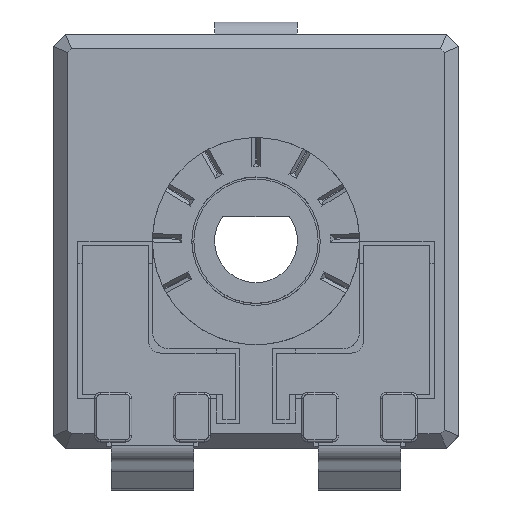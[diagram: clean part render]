
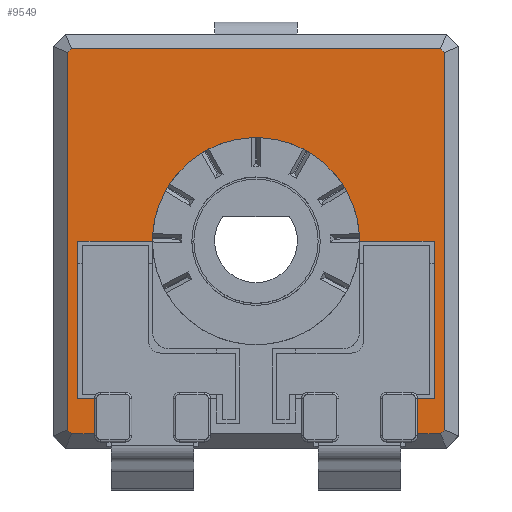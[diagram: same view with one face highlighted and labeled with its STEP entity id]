
A CAD part, top view. The second image highlights one B-rep face of the part: STEP entity #9549.
In plain terms, the highlighted planar face has unit normal (0, 0, 1).
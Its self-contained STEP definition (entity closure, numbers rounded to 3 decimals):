
#171=PLANE('',#10188);
#616=FACE_OUTER_BOUND('',#1113,.T.);
#1113=EDGE_LOOP('',(#7013,#7014,#7015,#7016,#7017,#7018,#7019,#7020,#7021,
#7022,#7023,#7024,#7025,#7026,#7027,#7028,#7029,#7030));
#1610=CIRCLE('',#10189,2.5);
#1933=LINE('',#13886,#3061);
#1986=LINE('',#14102,#3114);
#2041=LINE('',#14222,#3169);
#2063=LINE('',#14266,#3191);
#2064=LINE('',#14268,#3192);
#2065=LINE('',#14270,#3193);
#2066=LINE('',#14272,#3194);
#2067=LINE('',#14274,#3195);
#2068=LINE('',#14276,#3196);
#2069=LINE('',#14278,#3197);
#2070=LINE('',#14280,#3198);
#2071=LINE('',#14281,#3199);
#2072=LINE('',#14283,#3200);
#2073=LINE('',#14285,#3201);
#2074=LINE('',#14287,#3202);
#2075=LINE('',#14291,#3203);
#2076=LINE('',#14292,#3204);
#3061=VECTOR('',#11131,10.);
#3114=VECTOR('',#11378,10.);
#3169=VECTOR('',#11493,10.);
#3191=VECTOR('',#11529,10.);
#3192=VECTOR('',#11530,10.);
#3193=VECTOR('',#11531,10.);
#3194=VECTOR('',#11532,10.);
#3195=VECTOR('',#11533,10.);
#3196=VECTOR('',#11534,10.);
#3197=VECTOR('',#11535,10.);
#3198=VECTOR('',#11536,10.);
#3199=VECTOR('',#11537,10.);
#3200=VECTOR('',#11538,10.);
#3201=VECTOR('',#11539,10.);
#3202=VECTOR('',#11540,10.);
#3203=VECTOR('',#11543,10.);
#3204=VECTOR('',#11544,10.);
#4196=VERTEX_POINT('',#13883);
#4197=VERTEX_POINT('',#13885);
#4262=VERTEX_POINT('',#14099);
#4263=VERTEX_POINT('',#14101);
#4298=VERTEX_POINT('',#14221);
#4313=VERTEX_POINT('',#14265);
#4314=VERTEX_POINT('',#14267);
#4315=VERTEX_POINT('',#14269);
#4316=VERTEX_POINT('',#14271);
#4317=VERTEX_POINT('',#14273);
#4318=VERTEX_POINT('',#14275);
#4319=VERTEX_POINT('',#14277);
#4320=VERTEX_POINT('',#14279);
#4321=VERTEX_POINT('',#14282);
#4322=VERTEX_POINT('',#14284);
#4323=VERTEX_POINT('',#14286);
#4324=VERTEX_POINT('',#14288);
#4325=VERTEX_POINT('',#14290);
#5148=EDGE_CURVE('',#4197,#4196,#1933,.T.);
#5256=EDGE_CURVE('',#4263,#4262,#1986,.T.);
#5318=EDGE_CURVE('',#4298,#4197,#2041,.T.);
#5341=EDGE_CURVE('',#4313,#4196,#2063,.T.);
#5342=EDGE_CURVE('',#4314,#4313,#2064,.T.);
#5343=EDGE_CURVE('',#4315,#4314,#2065,.T.);
#5344=EDGE_CURVE('',#4316,#4315,#2066,.T.);
#5345=EDGE_CURVE('',#4317,#4316,#2067,.T.);
#5346=EDGE_CURVE('',#4318,#4317,#2068,.T.);
#5347=EDGE_CURVE('',#4319,#4318,#2069,.T.);
#5348=EDGE_CURVE('',#4320,#4319,#2070,.T.);
#5349=EDGE_CURVE('',#4263,#4320,#2071,.T.);
#5350=EDGE_CURVE('',#4262,#4321,#2072,.T.);
#5351=EDGE_CURVE('',#4321,#4322,#2073,.T.);
#5352=EDGE_CURVE('',#4322,#4323,#2074,.T.);
#5353=EDGE_CURVE('',#4323,#4324,#1610,.T.);
#5354=EDGE_CURVE('',#4324,#4325,#2075,.T.);
#5355=EDGE_CURVE('',#4325,#4298,#2076,.T.);
#7013=ORIENTED_EDGE('',*,*,#5148,.T.);
#7014=ORIENTED_EDGE('',*,*,#5341,.F.);
#7015=ORIENTED_EDGE('',*,*,#5342,.F.);
#7016=ORIENTED_EDGE('',*,*,#5343,.F.);
#7017=ORIENTED_EDGE('',*,*,#5344,.F.);
#7018=ORIENTED_EDGE('',*,*,#5345,.F.);
#7019=ORIENTED_EDGE('',*,*,#5346,.F.);
#7020=ORIENTED_EDGE('',*,*,#5347,.F.);
#7021=ORIENTED_EDGE('',*,*,#5348,.F.);
#7022=ORIENTED_EDGE('',*,*,#5349,.F.);
#7023=ORIENTED_EDGE('',*,*,#5256,.T.);
#7024=ORIENTED_EDGE('',*,*,#5350,.T.);
#7025=ORIENTED_EDGE('',*,*,#5351,.T.);
#7026=ORIENTED_EDGE('',*,*,#5352,.T.);
#7027=ORIENTED_EDGE('',*,*,#5353,.T.);
#7028=ORIENTED_EDGE('',*,*,#5354,.T.);
#7029=ORIENTED_EDGE('',*,*,#5355,.T.);
#7030=ORIENTED_EDGE('',*,*,#5318,.T.);
#9549=ADVANCED_FACE('',(#616),#171,.T.);
#10188=AXIS2_PLACEMENT_3D('',#14264,#11527,#11528);
#10189=AXIS2_PLACEMENT_3D('',#14289,#11541,#11542);
#11131=DIRECTION('',(0.,-1.,0.));
#11378=DIRECTION('',(0.,1.,0.));
#11493=DIRECTION('',(-1.,0.,0.));
#11527=DIRECTION('center_axis',(0.,0.,1.));
#11528=DIRECTION('ref_axis',(1.,0.,0.));
#11529=DIRECTION('',(-1.,0.,0.));
#11530=DIRECTION('',(-0.707,-0.707,0.));
#11531=DIRECTION('',(0.,-1.,0.));
#11532=DIRECTION('',(0.707,-0.707,0.));
#11533=DIRECTION('',(1.,0.,0.));
#11534=DIRECTION('',(0.707,0.707,0.));
#11535=DIRECTION('',(0.,1.,0.));
#11536=DIRECTION('',(-0.707,0.707,0.));
#11537=DIRECTION('',(-1.,0.,0.));
#11538=DIRECTION('',(-1.,0.,0.));
#11539=DIRECTION('',(0.,1.,0.));
#11540=DIRECTION('',(1.,0.,0.));
#11541=DIRECTION('center_axis',(0.,0.,-1.));
#11542=DIRECTION('ref_axis',(-1.,0.,0.));
#11543=DIRECTION('',(1.,0.,0.));
#11544=DIRECTION('',(0.,-1.,0.));
#13883=CARTESIAN_POINT('',(-22.548,-17.64,0.));
#13885=CARTESIAN_POINT('',(-22.548,-16.79,0.));
#13886=CARTESIAN_POINT('',(-22.548,-15.415,0.));
#14099=CARTESIAN_POINT('',(-30.348,-16.79,0.));
#14101=CARTESIAN_POINT('',(-30.348,-17.64,0.));
#14102=CARTESIAN_POINT('',(-30.348,-14.815,0.));
#14221=CARTESIAN_POINT('',(-22.148,-16.79,0.));
#14222=CARTESIAN_POINT('',(-24.648,-16.79,0.));
#14264=CARTESIAN_POINT('Origin',(-26.448,-12.99,0.));
#14265=CARTESIAN_POINT('',(-21.993,-17.64,0.));
#14266=CARTESIAN_POINT('',(-28.748,-17.64,0.));
#14267=CARTESIAN_POINT('',(-21.898,-17.545,0.));
#14268=CARTESIAN_POINT('',(-21.995,-17.643,0.));
#14269=CARTESIAN_POINT('',(-21.898,-8.435,0.));
#14270=CARTESIAN_POINT('',(-21.898,-15.34,0.));
#14271=CARTESIAN_POINT('',(-21.993,-8.34,0.));
#14272=CARTESIAN_POINT('',(-21.845,-8.488,0.));
#14273=CARTESIAN_POINT('',(-30.903,-8.34,0.));
#14274=CARTESIAN_POINT('',(-24.148,-8.34,0.));
#14275=CARTESIAN_POINT('',(-30.998,-8.435,0.));
#14276=CARTESIAN_POINT('',(-30.9,-8.338,0.));
#14277=CARTESIAN_POINT('',(-30.998,-17.545,0.));
#14278=CARTESIAN_POINT('',(-30.998,-10.64,0.));
#14279=CARTESIAN_POINT('',(-30.903,-17.64,0.));
#14280=CARTESIAN_POINT('',(-31.05,-17.493,0.));
#14281=CARTESIAN_POINT('',(-28.748,-17.64,0.));
#14282=CARTESIAN_POINT('',(-30.748,-16.79,0.));
#14283=CARTESIAN_POINT('',(-28.598,-16.79,0.));
#14284=CARTESIAN_POINT('',(-30.748,-12.99,0.));
#14285=CARTESIAN_POINT('',(-30.748,-12.99,0.));
#14286=CARTESIAN_POINT('',(-28.948,-12.99,0.));
#14287=CARTESIAN_POINT('',(-27.698,-12.99,0.));
#14288=CARTESIAN_POINT('',(-23.948,-12.99,0.));
#14289=CARTESIAN_POINT('Origin',(-26.448,-12.99,0.));
#14290=CARTESIAN_POINT('',(-22.148,-12.99,0.));
#14291=CARTESIAN_POINT('',(-24.298,-12.99,0.));
#14292=CARTESIAN_POINT('',(-22.148,-14.89,0.));
